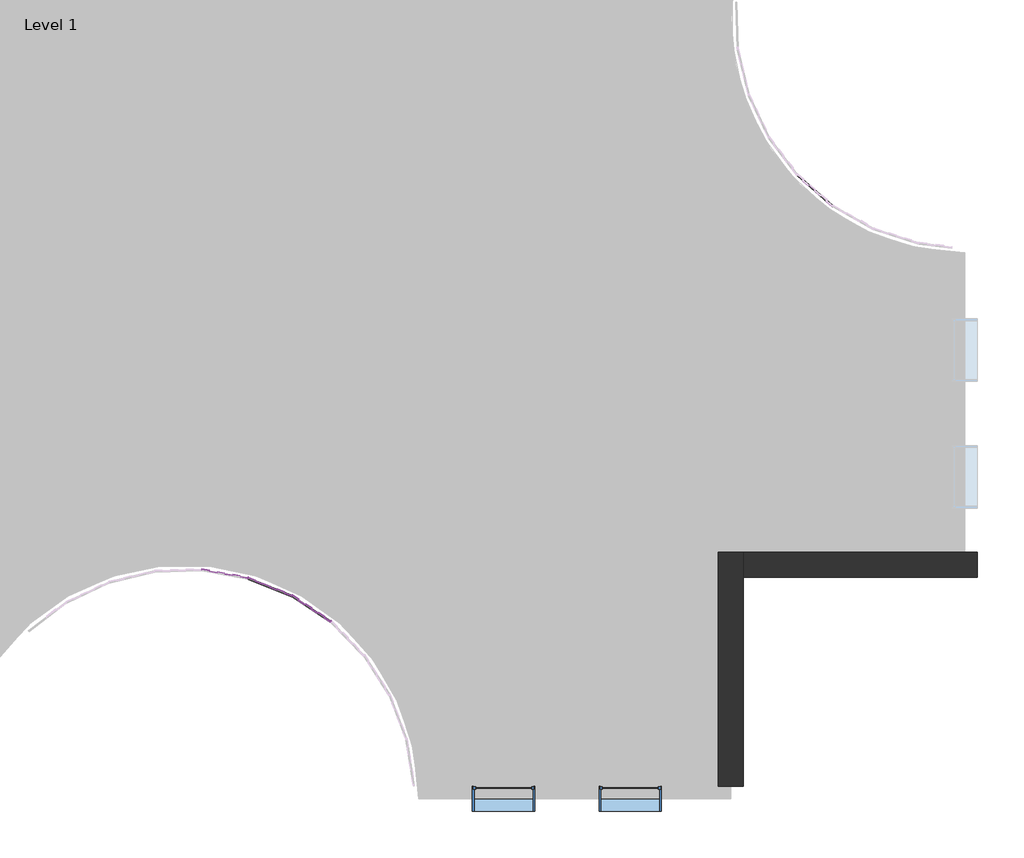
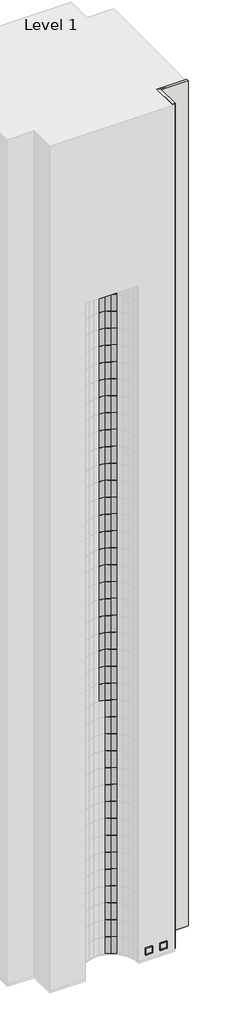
# One storey, part 10 of 20: 117 plates, 2 walls, 2 windows.
"""IFC4 building model written with IfcOpenShell, lengths in millimetres."""

from ifc_helpers import new_model, si_unit, origin, place, context, project, spatial, faceted_brep, transform, mapped, element, save
from components import system_panel_glazed_d77d1ebf, window_d0035ecf, window_d434eb62

model = new_model("IFC4")

# Units and contexts
model_context = context("Model", 3, world=origin())
ifc_project = project(units=[si_unit("LENGTHUNIT", "METRE", prefix="MILLI")], contexts=[model_context])

# Site, building, storey
site = spatial("IfcSite", under=ifc_project)
building = spatial("IfcBuilding", under=site)
storey = spatial("IfcBuildingStorey", under=building, Name="Level 1", Elevation=0.0)

# Plates
placement = place(None, origin())
system_panel_glazed_shape = system_panel_glazed_d77d1ebf(model_context)
element("IfcPlate", 1, ObjectType="System Panel : Glazed", at=placement, inside=storey, context=model_context, shape_type="MappedRepresentation", body=[
    mapped(system_panel_glazed_shape, transform((15850.2175557, -9523.6237667, 0.0), x_axis=(0.7538025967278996, -0.6571009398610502, 0.0), y_axis=(0.6571009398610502, 0.7538025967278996, 0.0), z_axis=(0.0, 0.0, 1.0))),
])
element("IfcPlate", 2, ObjectType="System Panel : Glazed", at=placement, inside=storey, context=model_context, shape_type="MappedRepresentation", body=[
    mapped(system_panel_glazed_shape, transform((15850.2175557, -9523.6237667, 3048.0), x_axis=(0.7538025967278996, -0.6571009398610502, 0.0), y_axis=(0.6571009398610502, 0.7538025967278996, 0.0), z_axis=(0.0, 0.0, 1.0))),
])
element("IfcPlate", 3, ObjectType="System Panel : Glazed", at=placement, inside=storey, context=model_context, shape_type="MappedRepresentation", body=[
    mapped(system_panel_glazed_shape, transform((15850.2175557, -9523.6237667, 6096.0), x_axis=(0.7538025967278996, -0.6571009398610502, 0.0), y_axis=(0.6571009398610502, 0.7538025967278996, 0.0), z_axis=(0.0, 0.0, 1.0))),
])
element("IfcPlate", 4, ObjectType="System Panel : Glazed", at=placement, inside=storey, context=model_context, shape_type="MappedRepresentation", body=[
    mapped(system_panel_glazed_shape, transform((15850.2175557, -9523.6237667, 9144.0), x_axis=(0.7538025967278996, -0.6571009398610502, 0.0), y_axis=(0.6571009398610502, 0.7538025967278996, 0.0), z_axis=(0.0, 0.0, 1.0))),
])
element("IfcPlate", 5, ObjectType="System Panel : Glazed", at=placement, inside=storey, context=model_context, shape_type="MappedRepresentation", body=[
    mapped(system_panel_glazed_shape, transform((15850.2175557, -9523.6237667, 12192.0), x_axis=(0.7538025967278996, -0.6571009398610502, 0.0), y_axis=(0.6571009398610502, 0.7538025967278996, 0.0), z_axis=(0.0, 0.0, 1.0))),
])
element("IfcPlate", 6, ObjectType="System Panel : Glazed", at=placement, inside=storey, context=model_context, shape_type="MappedRepresentation", body=[
    mapped(system_panel_glazed_shape, transform((15850.2175557, -9523.6237667, 15240.0), x_axis=(0.7538025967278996, -0.6571009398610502, 0.0), y_axis=(0.6571009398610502, 0.7538025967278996, 0.0), z_axis=(0.0, 0.0, 1.0))),
])
element("IfcPlate", 7, ObjectType="System Panel : Glazed", at=placement, inside=storey, context=model_context, shape_type="MappedRepresentation", body=[
    mapped(system_panel_glazed_shape, transform((15850.2175557, -9523.6237667, 18288.0), x_axis=(0.7538025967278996, -0.6571009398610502, 0.0), y_axis=(0.6571009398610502, 0.7538025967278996, 0.0), z_axis=(0.0, 0.0, 1.0))),
])
element("IfcPlate", 8, ObjectType="System Panel : Glazed", at=placement, inside=storey, context=model_context, shape_type="MappedRepresentation", body=[
    mapped(system_panel_glazed_shape, transform((15850.2175557, -9523.6237667, 21336.0), x_axis=(0.7538025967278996, -0.6571009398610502, 0.0), y_axis=(0.6571009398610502, 0.7538025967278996, 0.0), z_axis=(0.0, 0.0, 1.0))),
])
element("IfcPlate", 9, ObjectType="System Panel : Glazed", at=placement, inside=storey, context=model_context, shape_type="MappedRepresentation", body=[
    mapped(system_panel_glazed_shape, transform((15850.2175557, -9523.6237667, 24384.0), x_axis=(0.7538025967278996, -0.6571009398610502, 0.0), y_axis=(0.6571009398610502, 0.7538025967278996, 0.0), z_axis=(0.0, 0.0, 1.0))),
])
element("IfcPlate", 10, ObjectType="System Panel : Glazed", at=placement, inside=storey, context=model_context, shape_type="MappedRepresentation", body=[
    mapped(system_panel_glazed_shape, transform((15850.2175557, -9523.6237667, 27432.0), x_axis=(0.7538025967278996, -0.6571009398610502, 0.0), y_axis=(0.6571009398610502, 0.7538025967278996, 0.0), z_axis=(0.0, 0.0, 1.0))),
])
element("IfcPlate", 11, ObjectType="System Panel : Glazed", at=placement, inside=storey, context=model_context, shape_type="MappedRepresentation", body=[
    mapped(system_panel_glazed_shape, transform((15850.2175557, -9523.6237667, 30480.0), x_axis=(0.7538025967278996, -0.6571009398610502, 0.0), y_axis=(0.6571009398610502, 0.7538025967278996, 0.0), z_axis=(0.0, 0.0, 1.0))),
])
element("IfcPlate", 12, ObjectType="System Panel : Glazed", at=placement, inside=storey, context=model_context, shape_type="MappedRepresentation", body=[
    mapped(system_panel_glazed_shape, transform((15850.2175557, -9523.6237667, 33528.0), x_axis=(0.7538025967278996, -0.6571009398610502, 0.0), y_axis=(0.6571009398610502, 0.7538025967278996, 0.0), z_axis=(0.0, 0.0, 1.0))),
])
element("IfcPlate", 13, ObjectType="System Panel : Glazed", at=placement, inside=storey, context=model_context, shape_type="MappedRepresentation", body=[
    mapped(system_panel_glazed_shape, transform((4291.5961904, -17071.9370863, 45720.0), x_axis=(-0.9845824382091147, 0.17492118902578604, 0.0), y_axis=(-0.17492118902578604, -0.9845824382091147, 0.0), z_axis=(0.0, 0.0, 1.0))),
])
element("IfcPlate", 14, ObjectType="System Panel : Glazed", at=placement, inside=storey, context=model_context, shape_type="MappedRepresentation", body=[
    mapped(system_panel_glazed_shape, transform((4291.5961904, -17071.9370863, 48768.0), x_axis=(-0.9845824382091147, 0.17492118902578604, 0.0), y_axis=(-0.17492118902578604, -0.9845824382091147, 0.0), z_axis=(0.0, 0.0, 1.0))),
])
element("IfcPlate", 15, ObjectType="System Panel : Glazed", at=placement, inside=storey, context=model_context, shape_type="MappedRepresentation", body=[
    mapped(system_panel_glazed_shape, transform((4291.5961904, -17071.9370863, 51816.0), x_axis=(-0.9845824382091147, 0.17492118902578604, 0.0), y_axis=(-0.17492118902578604, -0.9845824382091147, 0.0), z_axis=(0.0, 0.0, 1.0))),
])
element("IfcPlate", 16, ObjectType="System Panel : Glazed", at=placement, inside=storey, context=model_context, shape_type="MappedRepresentation", body=[
    mapped(system_panel_glazed_shape, transform((4291.5961904, -17071.9370863, 54864.0), x_axis=(-0.9845824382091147, 0.17492118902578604, 0.0), y_axis=(-0.17492118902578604, -0.9845824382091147, 0.0), z_axis=(0.0, 0.0, 1.0))),
])
element("IfcPlate", 17, ObjectType="System Panel : Glazed", at=placement, inside=storey, context=model_context, shape_type="MappedRepresentation", body=[
    mapped(system_panel_glazed_shape, transform((4291.5961904, -17071.9370863, 57912.0), x_axis=(-0.9845824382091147, 0.17492118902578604, 0.0), y_axis=(-0.17492118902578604, -0.9845824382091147, 0.0), z_axis=(0.0, 0.0, 1.0))),
])
element("IfcPlate", 18, ObjectType="System Panel : Glazed", at=placement, inside=storey, context=model_context, shape_type="MappedRepresentation", body=[
    mapped(system_panel_glazed_shape, transform((4291.5961904, -17071.9370863, 60960.0), x_axis=(-0.9845824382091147, 0.17492118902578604, 0.0), y_axis=(-0.17492118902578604, -0.9845824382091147, 0.0), z_axis=(0.0, 0.0, 1.0))),
])
element("IfcPlate", 19, ObjectType="System Panel : Glazed", at=placement, inside=storey, context=model_context, shape_type="MappedRepresentation", body=[
    mapped(system_panel_glazed_shape, transform((4291.5961904, -17071.9370863, 64008.0), x_axis=(-0.9845824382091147, 0.17492118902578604, 0.0), y_axis=(-0.17492118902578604, -0.9845824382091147, 0.0), z_axis=(0.0, 0.0, 1.0))),
])
element("IfcPlate", 20, ObjectType="System Panel : Glazed", at=placement, inside=storey, context=model_context, shape_type="MappedRepresentation", body=[
    mapped(system_panel_glazed_shape, transform((4291.5961904, -17071.9370863, 67056.0), x_axis=(-0.9845824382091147, 0.17492118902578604, 0.0), y_axis=(-0.17492118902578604, -0.9845824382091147, 0.0), z_axis=(0.0, 0.0, 1.0))),
])
element("IfcPlate", 21, ObjectType="System Panel : Glazed", at=placement, inside=storey, context=model_context, shape_type="MappedRepresentation", body=[
    mapped(system_panel_glazed_shape, transform((4291.5961904, -17071.9370863, 70104.0), x_axis=(-0.9845824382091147, 0.17492118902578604, 0.0), y_axis=(-0.17492118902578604, -0.9845824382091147, 0.0), z_axis=(0.0, 0.0, 1.0))),
])
element("IfcPlate", 22, ObjectType="System Panel : Glazed", at=placement, inside=storey, context=model_context, shape_type="MappedRepresentation", body=[
    mapped(system_panel_glazed_shape, transform((4291.5961904, -17071.9370863, 73152.0), x_axis=(-0.9845824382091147, 0.17492118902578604, 0.0), y_axis=(-0.17492118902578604, -0.9845824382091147, 0.0), z_axis=(0.0, 0.0, 1.0))),
])
element("IfcPlate", 23, ObjectType="System Panel : Glazed", at=placement, inside=storey, context=model_context, shape_type="MappedRepresentation", body=[
    mapped(system_panel_glazed_shape, transform((4291.5961904, -17071.9370863, 76200.0), x_axis=(-0.9845824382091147, 0.17492118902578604, 0.0), y_axis=(-0.17492118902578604, -0.9845824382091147, 0.0), z_axis=(0.0, 0.0, 1.0))),
])
element("IfcPlate", 24, ObjectType="System Panel : Glazed", at=placement, inside=storey, context=model_context, shape_type="MappedRepresentation", body=[
    mapped(system_panel_glazed_shape, transform((4291.5961904, -17071.9370863, 79248.0), x_axis=(-0.9845824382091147, 0.17492118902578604, 0.0), y_axis=(-0.17492118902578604, -0.9845824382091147, 0.0), z_axis=(0.0, 0.0, 1.0))),
])
element("IfcPlate", 25, ObjectType="System Panel : Glazed", at=placement, inside=storey, context=model_context, shape_type="MappedRepresentation", body=[
    mapped(system_panel_glazed_shape, transform((4291.5961904, -17071.9370863, 82296.0), x_axis=(-0.9845824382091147, 0.17492118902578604, 0.0), y_axis=(-0.17492118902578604, -0.9845824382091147, 0.0), z_axis=(0.0, 0.0, 1.0))),
])
element("IfcPlate", 26, ObjectType="System Panel : Glazed", at=placement, inside=storey, context=model_context, shape_type="MappedRepresentation", body=[
    mapped(system_panel_glazed_shape, transform((4291.5961904, -17071.9370863, 85344.0), x_axis=(-0.9845824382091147, 0.17492118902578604, 0.0), y_axis=(-0.17492118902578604, -0.9845824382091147, 0.0), z_axis=(0.0, 0.0, 1.0))),
])
element("IfcPlate", 27, ObjectType="System Panel : Glazed", at=placement, inside=storey, context=model_context, shape_type="MappedRepresentation", body=[
    mapped(system_panel_glazed_shape, transform((4291.5961904, -17071.9370863, 88392.0), x_axis=(-0.9845824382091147, 0.17492118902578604, 0.0), y_axis=(-0.17492118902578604, -0.9845824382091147, 0.0), z_axis=(0.0, 0.0, 1.0))),
])
element("IfcPlate", 28, ObjectType="System Panel : Glazed", at=placement, inside=storey, context=model_context, shape_type="MappedRepresentation", body=[
    mapped(system_panel_glazed_shape, transform((4291.5961904, -17071.9370863, 91440.0), x_axis=(-0.9845824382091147, 0.17492118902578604, 0.0), y_axis=(-0.17492118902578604, -0.9845824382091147, 0.0), z_axis=(0.0, 0.0, 1.0))),
])
element("IfcPlate", 29, ObjectType="System Panel : Glazed", at=placement, inside=storey, context=model_context, shape_type="MappedRepresentation", body=[
    mapped(system_panel_glazed_shape, transform((4291.5961904, -17071.9370863, 94488.0), x_axis=(-0.9845824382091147, 0.17492118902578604, 0.0), y_axis=(-0.17492118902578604, -0.9845824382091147, 0.0), z_axis=(0.0, 0.0, 1.0))),
])
element("IfcPlate", 30, ObjectType="System Panel : Glazed", at=placement, inside=storey, context=model_context, shape_type="MappedRepresentation", body=[
    mapped(system_panel_glazed_shape, transform((4291.5961904, -17071.9370863, 97536.0), x_axis=(-0.9845824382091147, 0.17492118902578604, 0.0), y_axis=(-0.17492118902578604, -0.9845824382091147, 0.0), z_axis=(0.0, 0.0, 1.0))),
])
element("IfcPlate", 31, ObjectType="System Panel : Glazed", at=placement, inside=storey, context=model_context, shape_type="MappedRepresentation", body=[
    mapped(system_panel_glazed_shape, transform((4291.5961904, -17071.9370863, 100584.0), x_axis=(-0.9845824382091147, 0.17492118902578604, 0.0), y_axis=(-0.17492118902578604, -0.9845824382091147, 0.0), z_axis=(0.0, 0.0, 1.0))),
])
element("IfcPlate", 32, ObjectType="System Panel : Glazed", at=placement, inside=storey, context=model_context, shape_type="MappedRepresentation", body=[
    mapped(system_panel_glazed_shape, transform((5166.0341609, -17322.2415671, 0.0), x_axis=(-0.9280115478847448, 0.3725514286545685, 0.0), y_axis=(-0.3725514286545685, -0.9280115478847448, 0.0), z_axis=(0.0, 0.0, 1.0))),
])
element("IfcPlate", 33, ObjectType="System Panel : Glazed", at=placement, inside=storey, context=model_context, shape_type="MappedRepresentation", body=[
    mapped(system_panel_glazed_shape, transform((5166.0341609, -17322.2415671, 3048.0), x_axis=(-0.9280115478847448, 0.3725514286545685, 0.0), y_axis=(-0.3725514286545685, -0.9280115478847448, 0.0), z_axis=(0.0, 0.0, 1.0))),
])
element("IfcPlate", 34, ObjectType="System Panel : Glazed", at=placement, inside=storey, context=model_context, shape_type="MappedRepresentation", body=[
    mapped(system_panel_glazed_shape, transform((5166.0341609, -17322.2415671, 6096.0), x_axis=(-0.9280115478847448, 0.3725514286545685, 0.0), y_axis=(-0.3725514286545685, -0.9280115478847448, 0.0), z_axis=(0.0, 0.0, 1.0))),
])
element("IfcPlate", 35, ObjectType="System Panel : Glazed", at=placement, inside=storey, context=model_context, shape_type="MappedRepresentation", body=[
    mapped(system_panel_glazed_shape, transform((5166.0341609, -17322.2415671, 9144.0), x_axis=(-0.9280115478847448, 0.3725514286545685, 0.0), y_axis=(-0.3725514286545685, -0.9280115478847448, 0.0), z_axis=(0.0, 0.0, 1.0))),
])
element("IfcPlate", 36, ObjectType="System Panel : Glazed", at=placement, inside=storey, context=model_context, shape_type="MappedRepresentation", body=[
    mapped(system_panel_glazed_shape, transform((5166.0341609, -17322.2415671, 12192.0), x_axis=(-0.9280115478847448, 0.3725514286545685, 0.0), y_axis=(-0.3725514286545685, -0.9280115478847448, 0.0), z_axis=(0.0, 0.0, 1.0))),
])
element("IfcPlate", 37, ObjectType="System Panel : Glazed", at=placement, inside=storey, context=model_context, shape_type="MappedRepresentation", body=[
    mapped(system_panel_glazed_shape, transform((5166.0341609, -17322.2415671, 15240.0), x_axis=(-0.9280115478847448, 0.3725514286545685, 0.0), y_axis=(-0.3725514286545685, -0.9280115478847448, 0.0), z_axis=(0.0, 0.0, 1.0))),
])
element("IfcPlate", 38, ObjectType="System Panel : Glazed", at=placement, inside=storey, context=model_context, shape_type="MappedRepresentation", body=[
    mapped(system_panel_glazed_shape, transform((5166.0341609, -17322.2415671, 18288.0), x_axis=(-0.9280115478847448, 0.3725514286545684, 0.0), y_axis=(-0.3725514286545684, -0.9280115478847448, 0.0), z_axis=(0.0, 0.0, 1.0))),
])
element("IfcPlate", 39, ObjectType="System Panel : Glazed", at=placement, inside=storey, context=model_context, shape_type="MappedRepresentation", body=[
    mapped(system_panel_glazed_shape, transform((5166.0341609, -17322.2415671, 21336.0), x_axis=(-0.9280115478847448, 0.3725514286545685, 0.0), y_axis=(-0.3725514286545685, -0.9280115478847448, 0.0), z_axis=(0.0, 0.0, 1.0))),
])
element("IfcPlate", 40, ObjectType="System Panel : Glazed", at=placement, inside=storey, context=model_context, shape_type="MappedRepresentation", body=[
    mapped(system_panel_glazed_shape, transform((5166.0341609, -17322.2415671, 24384.0), x_axis=(-0.9280115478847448, 0.3725514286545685, 0.0), y_axis=(-0.3725514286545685, -0.9280115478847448, 0.0), z_axis=(0.0, 0.0, 1.0))),
])
element("IfcPlate", 41, ObjectType="System Panel : Glazed", at=placement, inside=storey, context=model_context, shape_type="MappedRepresentation", body=[
    mapped(system_panel_glazed_shape, transform((5166.0341609, -17322.2415671, 27432.0), x_axis=(-0.9280115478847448, 0.3725514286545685, 0.0), y_axis=(-0.3725514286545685, -0.9280115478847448, 0.0), z_axis=(0.0, 0.0, 1.0))),
])
element("IfcPlate", 42, ObjectType="System Panel : Glazed", at=placement, inside=storey, context=model_context, shape_type="MappedRepresentation", body=[
    mapped(system_panel_glazed_shape, transform((5166.0341609, -17322.2415671, 30480.0), x_axis=(-0.9280115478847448, 0.3725514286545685, 0.0), y_axis=(-0.3725514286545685, -0.9280115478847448, 0.0), z_axis=(0.0, 0.0, 1.0))),
])
element("IfcPlate", 43, ObjectType="System Panel : Glazed", at=placement, inside=storey, context=model_context, shape_type="MappedRepresentation", body=[
    mapped(system_panel_glazed_shape, transform((5166.0341609, -17322.2415671, 33528.0), x_axis=(-0.9280115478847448, 0.3725514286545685, 0.0), y_axis=(-0.3725514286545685, -0.9280115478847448, 0.0), z_axis=(0.0, 0.0, 1.0))),
])
element("IfcPlate", 44, ObjectType="System Panel : Glazed", at=placement, inside=storey, context=model_context, shape_type="MappedRepresentation", body=[
    mapped(system_panel_glazed_shape, transform((5166.0341609, -17322.2415671, 36576.0), x_axis=(-0.9280115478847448, 0.3725514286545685, 0.0), y_axis=(-0.3725514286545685, -0.9280115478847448, 0.0), z_axis=(0.0, 0.0, 1.0))),
])
element("IfcPlate", 45, ObjectType="System Panel : Glazed", at=placement, inside=storey, context=model_context, shape_type="MappedRepresentation", body=[
    mapped(system_panel_glazed_shape, transform((5166.0341609, -17322.2415671, 39624.0), x_axis=(-0.9280115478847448, 0.3725514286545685, 0.0), y_axis=(-0.3725514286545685, -0.9280115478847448, 0.0), z_axis=(0.0, 0.0, 1.0))),
])
element("IfcPlate", 46, ObjectType="System Panel : Glazed", at=placement, inside=storey, context=model_context, shape_type="MappedRepresentation", body=[
    mapped(system_panel_glazed_shape, transform((5166.0341609, -17322.2415671, 42672.0), x_axis=(-0.9280115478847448, 0.3725514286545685, 0.0), y_axis=(-0.3725514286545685, -0.9280115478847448, 0.0), z_axis=(0.0, 0.0, 1.0))),
])
element("IfcPlate", 47, ObjectType="System Panel : Glazed", at=placement, inside=storey, context=model_context, shape_type="MappedRepresentation", body=[
    mapped(system_panel_glazed_shape, transform((5166.0341609, -17322.2415671, 45720.0), x_axis=(-0.9280115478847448, 0.3725514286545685, 0.0), y_axis=(-0.3725514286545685, -0.9280115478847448, 0.0), z_axis=(0.0, 0.0, 1.0))),
])
element("IfcPlate", 48, ObjectType="System Panel : Glazed", at=placement, inside=storey, context=model_context, shape_type="MappedRepresentation", body=[
    mapped(system_panel_glazed_shape, transform((5166.0341609, -17322.2415671, 48768.0), x_axis=(-0.9280115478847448, 0.3725514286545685, 0.0), y_axis=(-0.3725514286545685, -0.9280115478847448, 0.0), z_axis=(0.0, 0.0, 1.0))),
])
element("IfcPlate", 49, ObjectType="System Panel : Glazed", at=placement, inside=storey, context=model_context, shape_type="MappedRepresentation", body=[
    mapped(system_panel_glazed_shape, transform((5166.0341609, -17322.2415671, 51816.0), x_axis=(-0.9280115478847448, 0.3725514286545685, 0.0), y_axis=(-0.3725514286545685, -0.9280115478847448, 0.0), z_axis=(0.0, 0.0, 1.0))),
])
element("IfcPlate", 50, ObjectType="System Panel : Glazed", at=placement, inside=storey, context=model_context, shape_type="MappedRepresentation", body=[
    mapped(system_panel_glazed_shape, transform((5166.0341609, -17322.2415671, 54864.0), x_axis=(-0.9280115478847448, 0.3725514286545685, 0.0), y_axis=(-0.3725514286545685, -0.9280115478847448, 0.0), z_axis=(0.0, 0.0, 1.0))),
])
element("IfcPlate", 51, ObjectType="System Panel : Glazed", at=placement, inside=storey, context=model_context, shape_type="MappedRepresentation", body=[
    mapped(system_panel_glazed_shape, transform((5166.0341609, -17322.2415671, 57912.0), x_axis=(-0.9280115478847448, 0.3725514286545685, 0.0), y_axis=(-0.3725514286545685, -0.9280115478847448, 0.0), z_axis=(0.0, 0.0, 1.0))),
])
element("IfcPlate", 52, ObjectType="System Panel : Glazed", at=placement, inside=storey, context=model_context, shape_type="MappedRepresentation", body=[
    mapped(system_panel_glazed_shape, transform((5166.0341609, -17322.2415671, 60960.0), x_axis=(-0.9280115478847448, 0.3725514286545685, 0.0), y_axis=(-0.3725514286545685, -0.9280115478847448, 0.0), z_axis=(0.0, 0.0, 1.0))),
])
element("IfcPlate", 53, ObjectType="System Panel : Glazed", at=placement, inside=storey, context=model_context, shape_type="MappedRepresentation", body=[
    mapped(system_panel_glazed_shape, transform((5166.0341609, -17322.2415671, 64008.0), x_axis=(-0.9280115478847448, 0.3725514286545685, 0.0), y_axis=(-0.3725514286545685, -0.9280115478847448, 0.0), z_axis=(0.0, 0.0, 1.0))),
])
element("IfcPlate", 54, ObjectType="System Panel : Glazed", at=placement, inside=storey, context=model_context, shape_type="MappedRepresentation", body=[
    mapped(system_panel_glazed_shape, transform((5166.0341609, -17322.2415671, 67056.0), x_axis=(-0.9280115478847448, 0.3725514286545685, 0.0), y_axis=(-0.3725514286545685, -0.9280115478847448, 0.0), z_axis=(0.0, 0.0, 1.0))),
])
element("IfcPlate", 55, ObjectType="System Panel : Glazed", at=placement, inside=storey, context=model_context, shape_type="MappedRepresentation", body=[
    mapped(system_panel_glazed_shape, transform((5166.0341609, -17322.2415671, 70104.0), x_axis=(-0.9280115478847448, 0.3725514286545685, 0.0), y_axis=(-0.3725514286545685, -0.9280115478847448, 0.0), z_axis=(0.0, 0.0, 1.0))),
])
element("IfcPlate", 56, ObjectType="System Panel : Glazed", at=placement, inside=storey, context=model_context, shape_type="MappedRepresentation", body=[
    mapped(system_panel_glazed_shape, transform((5166.0341609, -17322.2415671, 73152.0), x_axis=(-0.9280115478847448, 0.3725514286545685, 0.0), y_axis=(-0.3725514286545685, -0.9280115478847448, 0.0), z_axis=(0.0, 0.0, 1.0))),
])
element("IfcPlate", 57, ObjectType="System Panel : Glazed", at=placement, inside=storey, context=model_context, shape_type="MappedRepresentation", body=[
    mapped(system_panel_glazed_shape, transform((5166.0341609, -17322.2415671, 76200.0), x_axis=(-0.9280115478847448, 0.3725514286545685, 0.0), y_axis=(-0.3725514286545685, -0.9280115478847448, 0.0), z_axis=(0.0, 0.0, 1.0))),
])
element("IfcPlate", 58, ObjectType="System Panel : Glazed", at=placement, inside=storey, context=model_context, shape_type="MappedRepresentation", body=[
    mapped(system_panel_glazed_shape, transform((5166.0341609, -17322.2415671, 79248.0), x_axis=(-0.9280115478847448, 0.3725514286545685, 0.0), y_axis=(-0.3725514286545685, -0.9280115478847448, 0.0), z_axis=(0.0, 0.0, 1.0))),
])
element("IfcPlate", 59, ObjectType="System Panel : Glazed", at=placement, inside=storey, context=model_context, shape_type="MappedRepresentation", body=[
    mapped(system_panel_glazed_shape, transform((5166.0341609, -17322.2415671, 82296.0), x_axis=(-0.9280115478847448, 0.3725514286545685, 0.0), y_axis=(-0.3725514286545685, -0.9280115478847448, 0.0), z_axis=(0.0, 0.0, 1.0))),
])
element("IfcPlate", 60, ObjectType="System Panel : Glazed", at=placement, inside=storey, context=model_context, shape_type="MappedRepresentation", body=[
    mapped(system_panel_glazed_shape, transform((5166.0341609, -17322.2415671, 85344.0), x_axis=(-0.9280115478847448, 0.3725514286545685, 0.0), y_axis=(-0.3725514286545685, -0.9280115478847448, 0.0), z_axis=(0.0, 0.0, 1.0))),
])
element("IfcPlate", 61, ObjectType="System Panel : Glazed", at=placement, inside=storey, context=model_context, shape_type="MappedRepresentation", body=[
    mapped(system_panel_glazed_shape, transform((5166.0341609, -17322.2415671, 88392.0), x_axis=(-0.9280115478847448, 0.3725514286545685, 0.0), y_axis=(-0.3725514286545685, -0.9280115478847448, 0.0), z_axis=(0.0, 0.0, 1.0))),
])
element("IfcPlate", 62, ObjectType="System Panel : Glazed", at=placement, inside=storey, context=model_context, shape_type="MappedRepresentation", body=[
    mapped(system_panel_glazed_shape, transform((5166.0341609, -17322.2415671, 91440.0), x_axis=(-0.9280115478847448, 0.3725514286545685, 0.0), y_axis=(-0.3725514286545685, -0.9280115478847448, 0.0), z_axis=(0.0, 0.0, 1.0))),
])
element("IfcPlate", 63, ObjectType="System Panel : Glazed", at=placement, inside=storey, context=model_context, shape_type="MappedRepresentation", body=[
    mapped(system_panel_glazed_shape, transform((5166.0341609, -17322.2415671, 94488.0), x_axis=(-0.9280115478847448, 0.3725514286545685, 0.0), y_axis=(-0.3725514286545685, -0.9280115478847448, 0.0), z_axis=(0.0, 0.0, 1.0))),
])
element("IfcPlate", 64, ObjectType="System Panel : Glazed", at=placement, inside=storey, context=model_context, shape_type="MappedRepresentation", body=[
    mapped(system_panel_glazed_shape, transform((5166.0341609, -17322.2415671, 97536.0), x_axis=(-0.9280115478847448, 0.3725514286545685, 0.0), y_axis=(-0.3725514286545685, -0.9280115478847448, 0.0), z_axis=(0.0, 0.0, 1.0))),
])
element("IfcPlate", 65, ObjectType="System Panel : Glazed", at=placement, inside=storey, context=model_context, shape_type="MappedRepresentation", body=[
    mapped(system_panel_glazed_shape, transform((5166.0341609, -17322.2415671, 100584.0), x_axis=(-0.9280115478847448, 0.3725514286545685, 0.0), y_axis=(-0.3725514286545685, -0.9280115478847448, 0.0), z_axis=(0.0, 0.0, 1.0))),
])
element("IfcPlate", 66, ObjectType="System Panel : Glazed", at=placement, inside=storey, context=model_context, shape_type="MappedRepresentation", body=[
    mapped(system_panel_glazed_shape, transform((5970.8142039, -17746.061316, 0.0), x_axis=(-0.8322247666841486, 0.554438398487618, 0.0), y_axis=(-0.554438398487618, -0.8322247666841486, 0.0), z_axis=(0.0, 0.0, 1.0))),
])
element("IfcPlate", 67, ObjectType="System Panel : Glazed", at=placement, inside=storey, context=model_context, shape_type="MappedRepresentation", body=[
    mapped(system_panel_glazed_shape, transform((5970.8142039, -17746.061316, 3048.0), x_axis=(-0.8322247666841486, 0.554438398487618, 0.0), y_axis=(-0.554438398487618, -0.8322247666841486, 0.0), z_axis=(0.0, 0.0, 1.0))),
])
element("IfcPlate", 68, ObjectType="System Panel : Glazed", at=placement, inside=storey, context=model_context, shape_type="MappedRepresentation", body=[
    mapped(system_panel_glazed_shape, transform((5970.8142039, -17746.061316, 6096.0), x_axis=(-0.8322247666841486, 0.554438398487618, 0.0), y_axis=(-0.554438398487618, -0.8322247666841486, 0.0), z_axis=(0.0, 0.0, 1.0))),
])
element("IfcPlate", 69, ObjectType="System Panel : Glazed", at=placement, inside=storey, context=model_context, shape_type="MappedRepresentation", body=[
    mapped(system_panel_glazed_shape, transform((5970.8142039, -17746.061316, 9144.0), x_axis=(-0.8322247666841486, 0.554438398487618, 0.0), y_axis=(-0.554438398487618, -0.8322247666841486, 0.0), z_axis=(0.0, 0.0, 1.0))),
])
element("IfcPlate", 70, ObjectType="System Panel : Glazed", at=placement, inside=storey, context=model_context, shape_type="MappedRepresentation", body=[
    mapped(system_panel_glazed_shape, transform((5970.8142039, -17746.061316, 12192.0), x_axis=(-0.8322247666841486, 0.554438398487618, 0.0), y_axis=(-0.554438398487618, -0.8322247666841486, 0.0), z_axis=(0.0, 0.0, 1.0))),
])
element("IfcPlate", 71, ObjectType="System Panel : Glazed", at=placement, inside=storey, context=model_context, shape_type="MappedRepresentation", body=[
    mapped(system_panel_glazed_shape, transform((5970.8142039, -17746.061316, 15240.0), x_axis=(-0.8322247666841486, 0.554438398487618, 0.0), y_axis=(-0.554438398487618, -0.8322247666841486, 0.0), z_axis=(0.0, 0.0, 1.0))),
])
element("IfcPlate", 72, ObjectType="System Panel : Glazed", at=placement, inside=storey, context=model_context, shape_type="MappedRepresentation", body=[
    mapped(system_panel_glazed_shape, transform((5970.8142039, -17746.061316, 18288.0), x_axis=(-0.8322247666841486, 0.554438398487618, 0.0), y_axis=(-0.554438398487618, -0.8322247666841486, 0.0), z_axis=(0.0, 0.0, 1.0))),
])
element("IfcPlate", 73, ObjectType="System Panel : Glazed", at=placement, inside=storey, context=model_context, shape_type="MappedRepresentation", body=[
    mapped(system_panel_glazed_shape, transform((5970.8142039, -17746.061316, 21336.0), x_axis=(-0.8322247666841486, 0.554438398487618, 0.0), y_axis=(-0.554438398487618, -0.8322247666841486, 0.0), z_axis=(0.0, 0.0, 1.0))),
])
element("IfcPlate", 74, ObjectType="System Panel : Glazed", at=placement, inside=storey, context=model_context, shape_type="MappedRepresentation", body=[
    mapped(system_panel_glazed_shape, transform((5970.8142039, -17746.061316, 24384.0), x_axis=(-0.8322247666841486, 0.554438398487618, 0.0), y_axis=(-0.554438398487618, -0.8322247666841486, 0.0), z_axis=(0.0, 0.0, 1.0))),
])
element("IfcPlate", 75, ObjectType="System Panel : Glazed", at=placement, inside=storey, context=model_context, shape_type="MappedRepresentation", body=[
    mapped(system_panel_glazed_shape, transform((5970.8142039, -17746.061316, 27432.0), x_axis=(-0.8322247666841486, 0.554438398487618, 0.0), y_axis=(-0.554438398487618, -0.8322247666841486, 0.0), z_axis=(0.0, 0.0, 1.0))),
])
element("IfcPlate", 76, ObjectType="System Panel : Glazed", at=placement, inside=storey, context=model_context, shape_type="MappedRepresentation", body=[
    mapped(system_panel_glazed_shape, transform((5970.8142039, -17746.061316, 30480.0), x_axis=(-0.8322247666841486, 0.554438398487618, 0.0), y_axis=(-0.554438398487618, -0.8322247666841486, 0.0), z_axis=(0.0, 0.0, 1.0))),
])
element("IfcPlate", 77, ObjectType="System Panel : Glazed", at=placement, inside=storey, context=model_context, shape_type="MappedRepresentation", body=[
    mapped(system_panel_glazed_shape, transform((5970.8142039, -17746.061316, 33528.0), x_axis=(-0.8322247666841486, 0.554438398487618, 0.0), y_axis=(-0.554438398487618, -0.8322247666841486, 0.0), z_axis=(0.0, 0.0, 1.0))),
])
element("IfcPlate", 78, ObjectType="System Panel : Glazed", at=placement, inside=storey, context=model_context, shape_type="MappedRepresentation", body=[
    mapped(system_panel_glazed_shape, transform((5970.8142039, -17746.061316, 36576.0), x_axis=(-0.8322247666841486, 0.554438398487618, 0.0), y_axis=(-0.554438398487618, -0.8322247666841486, 0.0), z_axis=(0.0, 0.0, 1.0))),
])
element("IfcPlate", 79, ObjectType="System Panel : Glazed", at=placement, inside=storey, context=model_context, shape_type="MappedRepresentation", body=[
    mapped(system_panel_glazed_shape, transform((5970.8142039, -17746.061316, 39624.0), x_axis=(-0.8322247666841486, 0.554438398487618, 0.0), y_axis=(-0.554438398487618, -0.8322247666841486, 0.0), z_axis=(0.0, 0.0, 1.0))),
])
element("IfcPlate", 80, ObjectType="System Panel : Glazed", at=placement, inside=storey, context=model_context, shape_type="MappedRepresentation", body=[
    mapped(system_panel_glazed_shape, transform((5970.8142039, -17746.061316, 42672.0), x_axis=(-0.8322247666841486, 0.554438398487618, 0.0), y_axis=(-0.554438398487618, -0.8322247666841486, 0.0), z_axis=(0.0, 0.0, 1.0))),
])
element("IfcPlate", 81, ObjectType="System Panel : Glazed", at=placement, inside=storey, context=model_context, shape_type="MappedRepresentation", body=[
    mapped(system_panel_glazed_shape, transform((5970.8142039, -17746.061316, 45720.0), x_axis=(-0.8322247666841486, 0.554438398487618, 0.0), y_axis=(-0.554438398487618, -0.8322247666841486, 0.0), z_axis=(0.0, 0.0, 1.0))),
])
element("IfcPlate", 82, ObjectType="System Panel : Glazed", at=placement, inside=storey, context=model_context, shape_type="MappedRepresentation", body=[
    mapped(system_panel_glazed_shape, transform((5970.8142039, -17746.061316, 48768.0), x_axis=(-0.8322247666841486, 0.554438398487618, 0.0), y_axis=(-0.554438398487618, -0.8322247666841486, 0.0), z_axis=(0.0, 0.0, 1.0))),
])
element("IfcPlate", 83, ObjectType="System Panel : Glazed", at=placement, inside=storey, context=model_context, shape_type="MappedRepresentation", body=[
    mapped(system_panel_glazed_shape, transform((5970.8142039, -17746.061316, 51816.0), x_axis=(-0.8322247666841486, 0.554438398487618, 0.0), y_axis=(-0.554438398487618, -0.8322247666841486, 0.0), z_axis=(0.0, 0.0, 1.0))),
])
element("IfcPlate", 84, ObjectType="System Panel : Glazed", at=placement, inside=storey, context=model_context, shape_type="MappedRepresentation", body=[
    mapped(system_panel_glazed_shape, transform((5970.8142039, -17746.061316, 54864.0), x_axis=(-0.8322247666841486, 0.554438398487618, 0.0), y_axis=(-0.554438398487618, -0.8322247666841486, 0.0), z_axis=(0.0, 0.0, 1.0))),
])
element("IfcPlate", 85, ObjectType="System Panel : Glazed", at=placement, inside=storey, context=model_context, shape_type="MappedRepresentation", body=[
    mapped(system_panel_glazed_shape, transform((5970.8142039, -17746.061316, 57912.0), x_axis=(-0.8322247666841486, 0.554438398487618, 0.0), y_axis=(-0.554438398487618, -0.8322247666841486, 0.0), z_axis=(0.0, 0.0, 1.0))),
])
element("IfcPlate", 86, ObjectType="System Panel : Glazed", at=placement, inside=storey, context=model_context, shape_type="MappedRepresentation", body=[
    mapped(system_panel_glazed_shape, transform((5970.8142039, -17746.061316, 60960.0), x_axis=(-0.8322247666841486, 0.554438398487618, 0.0), y_axis=(-0.554438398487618, -0.8322247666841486, 0.0), z_axis=(0.0, 0.0, 1.0))),
])
element("IfcPlate", 87, ObjectType="System Panel : Glazed", at=placement, inside=storey, context=model_context, shape_type="MappedRepresentation", body=[
    mapped(system_panel_glazed_shape, transform((5970.8142039, -17746.061316, 64008.0), x_axis=(-0.8322247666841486, 0.554438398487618, 0.0), y_axis=(-0.554438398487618, -0.8322247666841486, 0.0), z_axis=(0.0, 0.0, 1.0))),
])
element("IfcPlate", 88, ObjectType="System Panel : Glazed", at=placement, inside=storey, context=model_context, shape_type="MappedRepresentation", body=[
    mapped(system_panel_glazed_shape, transform((5970.8142039, -17746.061316, 67056.0), x_axis=(-0.8322247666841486, 0.554438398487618, 0.0), y_axis=(-0.554438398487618, -0.8322247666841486, 0.0), z_axis=(0.0, 0.0, 1.0))),
])
element("IfcPlate", 89, ObjectType="System Panel : Glazed", at=placement, inside=storey, context=model_context, shape_type="MappedRepresentation", body=[
    mapped(system_panel_glazed_shape, transform((5970.8142039, -17746.061316, 70104.0), x_axis=(-0.8322247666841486, 0.554438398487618, 0.0), y_axis=(-0.554438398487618, -0.8322247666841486, 0.0), z_axis=(0.0, 0.0, 1.0))),
])
element("IfcPlate", 90, ObjectType="System Panel : Glazed", at=placement, inside=storey, context=model_context, shape_type="MappedRepresentation", body=[
    mapped(system_panel_glazed_shape, transform((5970.8142039, -17746.061316, 73152.0), x_axis=(-0.8322247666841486, 0.554438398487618, 0.0), y_axis=(-0.554438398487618, -0.8322247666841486, 0.0), z_axis=(0.0, 0.0, 1.0))),
])
element("IfcPlate", 91, ObjectType="System Panel : Glazed", at=placement, inside=storey, context=model_context, shape_type="MappedRepresentation", body=[
    mapped(system_panel_glazed_shape, transform((5970.8142039, -17746.061316, 76200.0), x_axis=(-0.8322247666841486, 0.554438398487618, 0.0), y_axis=(-0.554438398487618, -0.8322247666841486, 0.0), z_axis=(0.0, 0.0, 1.0))),
])
element("IfcPlate", 92, ObjectType="System Panel : Glazed", at=placement, inside=storey, context=model_context, shape_type="MappedRepresentation", body=[
    mapped(system_panel_glazed_shape, transform((5970.8142039, -17746.061316, 79248.0), x_axis=(-0.8322247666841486, 0.554438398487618, 0.0), y_axis=(-0.554438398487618, -0.8322247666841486, 0.0), z_axis=(0.0, 0.0, 1.0))),
])
element("IfcPlate", 93, ObjectType="System Panel : Glazed", at=placement, inside=storey, context=model_context, shape_type="MappedRepresentation", body=[
    mapped(system_panel_glazed_shape, transform((5970.8142039, -17746.061316, 82296.0), x_axis=(-0.8322247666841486, 0.554438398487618, 0.0), y_axis=(-0.554438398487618, -0.8322247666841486, 0.0), z_axis=(0.0, 0.0, 1.0))),
])
element("IfcPlate", 94, ObjectType="System Panel : Glazed", at=placement, inside=storey, context=model_context, shape_type="MappedRepresentation", body=[
    mapped(system_panel_glazed_shape, transform((5970.8142039, -17746.061316, 85344.0), x_axis=(-0.8322247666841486, 0.554438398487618, 0.0), y_axis=(-0.554438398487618, -0.8322247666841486, 0.0), z_axis=(0.0, 0.0, 1.0))),
])
element("IfcPlate", 95, ObjectType="System Panel : Glazed", at=placement, inside=storey, context=model_context, shape_type="MappedRepresentation", body=[
    mapped(system_panel_glazed_shape, transform((5970.8142039, -17746.061316, 88392.0), x_axis=(-0.8322247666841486, 0.554438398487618, 0.0), y_axis=(-0.554438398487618, -0.8322247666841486, 0.0), z_axis=(0.0, 0.0, 1.0))),
])
element("IfcPlate", 96, ObjectType="System Panel : Glazed", at=placement, inside=storey, context=model_context, shape_type="MappedRepresentation", body=[
    mapped(system_panel_glazed_shape, transform((5970.8142039, -17746.061316, 91440.0), x_axis=(-0.8322247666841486, 0.554438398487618, 0.0), y_axis=(-0.554438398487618, -0.8322247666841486, 0.0), z_axis=(0.0, 0.0, 1.0))),
])
element("IfcPlate", 97, ObjectType="System Panel : Glazed", at=placement, inside=storey, context=model_context, shape_type="MappedRepresentation", body=[
    mapped(system_panel_glazed_shape, transform((5970.8142039, -17746.061316, 94488.0), x_axis=(-0.8322247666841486, 0.554438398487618, 0.0), y_axis=(-0.554438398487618, -0.8322247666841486, 0.0), z_axis=(0.0, 0.0, 1.0))),
])
element("IfcPlate", 98, ObjectType="System Panel : Glazed", at=placement, inside=storey, context=model_context, shape_type="MappedRepresentation", body=[
    mapped(system_panel_glazed_shape, transform((5970.8142039, -17746.061316, 97536.0), x_axis=(-0.8322247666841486, 0.554438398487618, 0.0), y_axis=(-0.554438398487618, -0.8322247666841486, 0.0), z_axis=(0.0, 0.0, 1.0))),
])
element("IfcPlate", 99, ObjectType="System Panel : Glazed", at=placement, inside=storey, context=model_context, shape_type="MappedRepresentation", body=[
    mapped(system_panel_glazed_shape, transform((5970.8142039, -17746.061316, 100584.0), x_axis=(-0.8322247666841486, 0.554438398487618, 0.0), y_axis=(-0.554438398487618, -0.8322247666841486, 0.0), z_axis=(0.0, 0.0, 1.0))),
])
element("IfcPlate", 100, ObjectType="System Panel : Glazed", at=placement, inside=storey, context=model_context, shape_type="MappedRepresentation", body=[
    mapped(system_panel_glazed_shape, transform((4291.5961904, -17071.9370863, 103632.0), x_axis=(-0.9845824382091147, 0.17492118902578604, 0.0), y_axis=(-0.17492118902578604, -0.9845824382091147, 0.0), z_axis=(0.0, 0.0, 1.0))),
])
element("IfcPlate", 101, ObjectType="System Panel : Glazed", at=placement, inside=storey, context=model_context, shape_type="MappedRepresentation", body=[
    mapped(system_panel_glazed_shape, transform((5166.0341609, -17322.2415671, 103632.0), x_axis=(-0.9280115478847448, 0.3725514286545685, 0.0), y_axis=(-0.3725514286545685, -0.9280115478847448, 0.0), z_axis=(0.0, 0.0, 1.0))),
])
element("IfcPlate", 102, ObjectType="System Panel : Glazed", at=placement, inside=storey, context=model_context, shape_type="MappedRepresentation", body=[
    mapped(system_panel_glazed_shape, transform((5970.8142039, -17746.061316, 103632.0), x_axis=(-0.8322247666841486, 0.554438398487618, 0.0), y_axis=(-0.554438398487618, -0.8322247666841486, 0.0), z_axis=(0.0, 0.0, 1.0))),
])
element("IfcPlate", 103, ObjectType="System Panel : Glazed", at=placement, inside=storey, context=model_context, shape_type="MappedRepresentation", body=[
    mapped(system_panel_glazed_shape, transform((4291.5961904, -17071.9370863, 106680.0), x_axis=(-0.9845824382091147, 0.17492118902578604, 0.0), y_axis=(-0.17492118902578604, -0.9845824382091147, 0.0), z_axis=(0.0, 0.0, 1.0))),
])
element("IfcPlate", 104, ObjectType="System Panel : Glazed", at=placement, inside=storey, context=model_context, shape_type="MappedRepresentation", body=[
    mapped(system_panel_glazed_shape, transform((5166.0341609, -17322.2415671, 106680.0), x_axis=(-0.9280115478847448, 0.3725514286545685, 0.0), y_axis=(-0.3725514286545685, -0.9280115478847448, 0.0), z_axis=(0.0, 0.0, 1.0))),
])
element("IfcPlate", 105, ObjectType="System Panel : Glazed", at=placement, inside=storey, context=model_context, shape_type="MappedRepresentation", body=[
    mapped(system_panel_glazed_shape, transform((5970.8142039, -17746.061316, 106680.0), x_axis=(-0.8322247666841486, 0.554438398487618, 0.0), y_axis=(-0.554438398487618, -0.8322247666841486, 0.0), z_axis=(0.0, 0.0, 1.0))),
])
element("IfcPlate", 106, ObjectType="System Panel : Glazed", at=placement, inside=storey, context=model_context, shape_type="MappedRepresentation", body=[
    mapped(system_panel_glazed_shape, transform((4291.5961904, -17071.9370863, 109728.0), x_axis=(-0.9845824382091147, 0.17492118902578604, 0.0), y_axis=(-0.17492118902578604, -0.9845824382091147, 0.0), z_axis=(0.0, 0.0, 1.0))),
])
element("IfcPlate", 107, ObjectType="System Panel : Glazed", at=placement, inside=storey, context=model_context, shape_type="MappedRepresentation", body=[
    mapped(system_panel_glazed_shape, transform((5166.0341609, -17322.2415671, 109728.0), x_axis=(-0.9280115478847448, 0.3725514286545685, 0.0), y_axis=(-0.3725514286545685, -0.9280115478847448, 0.0), z_axis=(0.0, 0.0, 1.0))),
])
element("IfcPlate", 108, ObjectType="System Panel : Glazed", at=placement, inside=storey, context=model_context, shape_type="MappedRepresentation", body=[
    mapped(system_panel_glazed_shape, transform((5970.8142039, -17746.061316, 109728.0), x_axis=(-0.8322247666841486, 0.554438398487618, 0.0), y_axis=(-0.554438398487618, -0.8322247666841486, 0.0), z_axis=(0.0, 0.0, 1.0))),
])
element("IfcPlate", 109, ObjectType="System Panel : Glazed", at=placement, inside=storey, context=model_context, shape_type="MappedRepresentation", body=[
    mapped(system_panel_glazed_shape, transform((4291.5961904, -17071.9370863, 112776.0), x_axis=(-0.9845824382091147, 0.17492118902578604, 0.0), y_axis=(-0.17492118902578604, -0.9845824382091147, 0.0), z_axis=(0.0, 0.0, 1.0))),
])
element("IfcPlate", 110, ObjectType="System Panel : Glazed", at=placement, inside=storey, context=model_context, shape_type="MappedRepresentation", body=[
    mapped(system_panel_glazed_shape, transform((5166.0341609, -17322.2415671, 112776.0), x_axis=(-0.9280115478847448, 0.3725514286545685, 0.0), y_axis=(-0.3725514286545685, -0.9280115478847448, 0.0), z_axis=(0.0, 0.0, 1.0))),
])
element("IfcPlate", 111, ObjectType="System Panel : Glazed", at=placement, inside=storey, context=model_context, shape_type="MappedRepresentation", body=[
    mapped(system_panel_glazed_shape, transform((5970.8142039, -17746.061316, 112776.0), x_axis=(-0.8322247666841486, 0.554438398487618, 0.0), y_axis=(-0.554438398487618, -0.8322247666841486, 0.0), z_axis=(0.0, 0.0, 1.0))),
])
element("IfcPlate", 112, ObjectType="System Panel : Glazed", at=placement, inside=storey, context=model_context, shape_type="MappedRepresentation", body=[
    mapped(system_panel_glazed_shape, transform((4291.5961904, -17071.9370863, 115824.0), x_axis=(-0.9845824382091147, 0.17492118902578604, 0.0), y_axis=(-0.17492118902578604, -0.9845824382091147, 0.0), z_axis=(0.0, 0.0, 1.0))),
])
element("IfcPlate", 113, ObjectType="System Panel : Glazed", at=placement, inside=storey, context=model_context, shape_type="MappedRepresentation", body=[
    mapped(system_panel_glazed_shape, transform((5166.0341609, -17322.2415671, 115824.0), x_axis=(-0.9280115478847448, 0.3725514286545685, 0.0), y_axis=(-0.3725514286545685, -0.9280115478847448, 0.0), z_axis=(0.0, 0.0, 1.0))),
])
element("IfcPlate", 114, ObjectType="System Panel : Glazed", at=placement, inside=storey, context=model_context, shape_type="MappedRepresentation", body=[
    mapped(system_panel_glazed_shape, transform((5970.8142039, -17746.061316, 115824.0), x_axis=(-0.8322247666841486, 0.554438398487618, 0.0), y_axis=(-0.554438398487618, -0.8322247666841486, 0.0), z_axis=(0.0, 0.0, 1.0))),
])
element("IfcPlate", 115, ObjectType="System Panel : Glazed", at=placement, inside=storey, context=model_context, shape_type="MappedRepresentation", body=[
    mapped(system_panel_glazed_shape, transform((4291.5961904, -17071.9370863, 118872.0), x_axis=(-0.9845824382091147, 0.17492118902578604, 0.0), y_axis=(-0.17492118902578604, -0.9845824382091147, 0.0), z_axis=(0.0, 0.0, 1.0))),
])
element("IfcPlate", 116, ObjectType="System Panel : Glazed", at=placement, inside=storey, context=model_context, shape_type="MappedRepresentation", body=[
    mapped(system_panel_glazed_shape, transform((5166.0341609, -17322.2415671, 118872.0), x_axis=(-0.9280115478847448, 0.3725514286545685, 0.0), y_axis=(-0.3725514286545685, -0.9280115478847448, 0.0), z_axis=(0.0, 0.0, 1.0))),
])
element("IfcPlate", 117, ObjectType="System Panel : Glazed", at=placement, inside=storey, context=model_context, shape_type="MappedRepresentation", body=[
    mapped(system_panel_glazed_shape, transform((5970.8142039, -17746.061316, 118872.0), x_axis=(-0.8322247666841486, 0.554438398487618, 0.0), y_axis=(-0.554438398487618, -0.8322247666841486, 0.0), z_axis=(0.0, 0.0, 1.0))),
])

# Walls
element("IfcWall", 118, ObjectType="Exterior - Brick on CMU", at=placement, inside=storey, context=model_context, shape_type="Brep", body=[
    faceted_brep([(14430.1120544, -21177.5115453, 0.0), (14430.1120544, -17100.8115453, 0.0), (14430.1120544, -16605.5115453, 0.0), (14430.1120544, -16605.5115453, 152400.0), (14430.1120544, -17100.8115453, 152400.0), (14430.1120544, -21177.5115453, 152400.0), (13934.8120544, -21177.5115453, 0.0), (13934.8120544, -21177.5115453, 152400.0), (13934.8120544, -16605.5115453, 152400.0), (13934.8120544, -16605.5115453, 0.0)], [[[0, 1, 2, 3, 4, 5]], [[6, 7, 8, 9]], [[2, 1, 0, 6, 9]], [[5, 4, 3, 8, 7]], [[3, 2, 9, 8]], [[0, 5, 7, 6]]]),
])
element("IfcWall", 119, ObjectType="Exterior - Brick on CMU", at=placement, inside=storey, context=model_context, shape_type="Brep", body=[
    faceted_brep([(14430.1120544, -17100.8115453, 0.0), (19002.1120544, -17100.8115453, 0.0), (19002.1120544, -17100.8115453, 152400.0), (14430.1120544, -17100.8115453, 152400.0), (14430.1120544, -16605.5115453, 0.0), (14430.1120544, -16605.5115453, 152400.0), (18506.8120544, -16605.5115453, 152400.0), (19002.1120544, -16605.5115453, 152400.0), (19002.1120544, -16605.5115453, 0.0), (18506.8120544, -16605.5115453, 0.0)], [[[0, 1, 2, 3]], [[4, 5, 6, 7, 8, 9]], [[1, 0, 4, 9, 8]], [[3, 2, 7, 6, 5]], [[2, 1, 8, 7]], [[0, 3, 5, 4]]]),
])

# Windows
window_shape = window_d0035ecf(model_context)
element("IfcWindow", 120, ObjectType="Fixed : 48\" x 48\"", at=placement, inside=storey, context=model_context, shape_type="MappedRepresentation", body=[
    mapped(window_shape, transform((12256.8234368, -21425.1615453, 0.0), x_axis=(1.0, 0.0, 0.0), y_axis=(0.0, 1.0, 0.0), z_axis=(0.0, 0.0, 1.0))),
])
window_2_shape = window_d434eb62(model_context)
element("IfcWindow", 121, ObjectType="Fixed : 48\" x 48\"", at=placement, inside=storey, context=model_context, shape_type="MappedRepresentation", body=[
    mapped(window_2_shape, transform((9705.7120544, -21425.1615453, 0.0), x_axis=(-1.0, 0.0, 0.0), y_axis=(0.0, -1.0, 0.0), z_axis=(0.0, 0.0, 1.0))),
])

save(model, "model.ifc")
